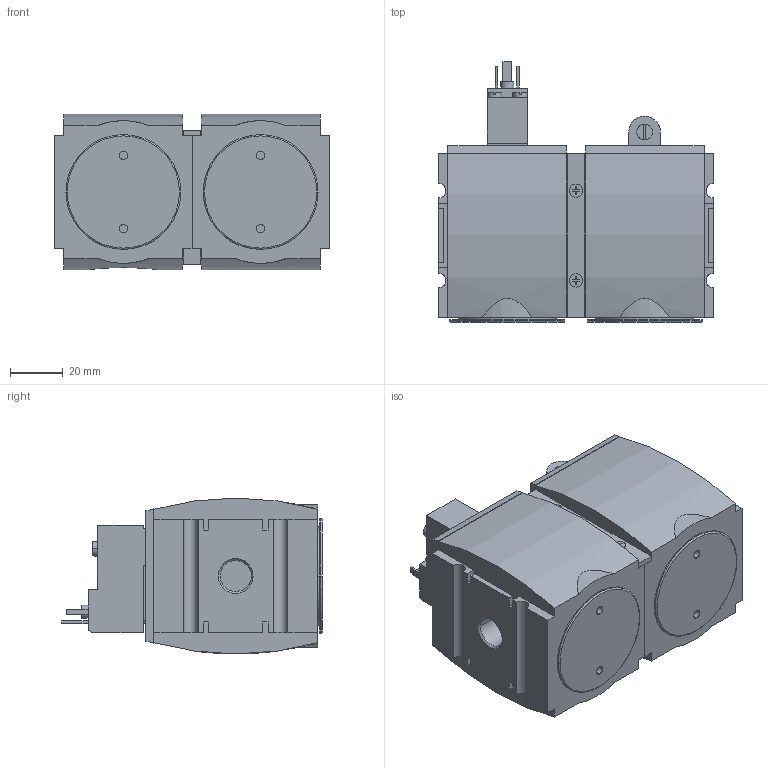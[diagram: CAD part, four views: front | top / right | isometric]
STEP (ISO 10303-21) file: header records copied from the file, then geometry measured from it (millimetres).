
FILE_DESCRIPTION((''),'2;1');
FILE_NAME('R412006278_ASM','2016-06-14T',('prr2cob'),(''),'PRO/ENGINEER BY PARAMETRIC TECHNOLOGY CORPORATION, 2012421','PRO/ENGINEER BY PARAMETRIC TECHNOLOGY CORPORATION, 2012421','');
FILE_SCHEMA(('CONFIG_CONTROL_DESIGN','SHAPE_APPEARANCE_LAYERS_GROUPS'));
Length unit declared in the file: millimetre
Products named in the file (4): R412006265; R412006371; R412006272; R412006278_ASM
Assembly tree (3 placements, depth 2):
  R412006278_ASM
    R412006265
    R412006371
    R412006272
Bounding box: 104 x 98.7 x 59 mm (x, y, z)
Volume: 372347.2 mm3; surface area: 57321.5 mm2
Topology: 3 solids, 3 shells, 322 faces, 825 edges, 542 vertices
Faces by surface type: plane 238, cylinder 68, cone 10, torus 6
Entity records: 10114 total; most frequent: CARTESIAN_POINT 2013, ORIENTED_EDGE 1650, DIRECTION 1646, EDGE_CURVE 825, VECTOR 648, LINE 648, VERTEX_POINT 542, AXIS2_PLACEMENT_3D 499
